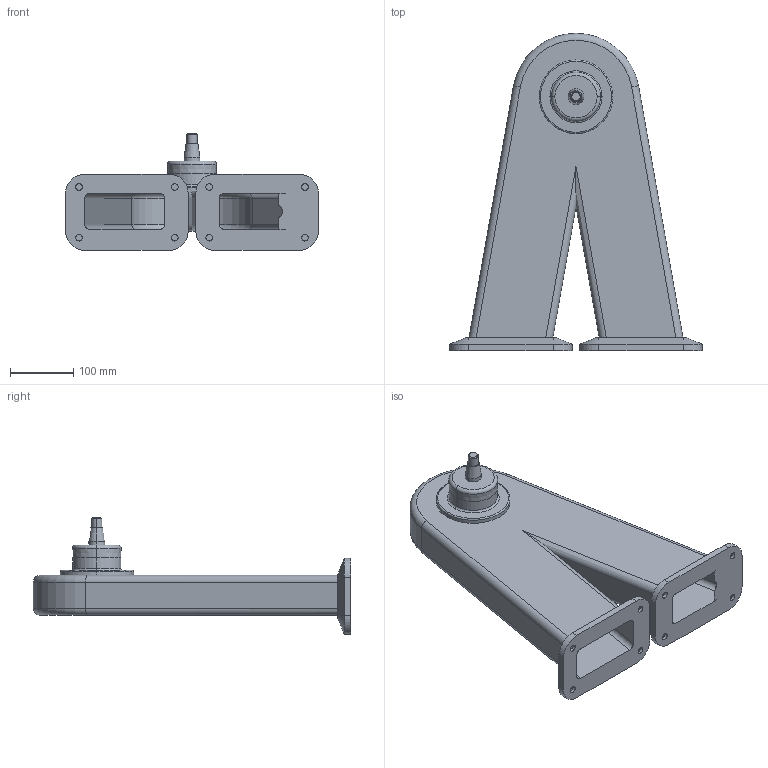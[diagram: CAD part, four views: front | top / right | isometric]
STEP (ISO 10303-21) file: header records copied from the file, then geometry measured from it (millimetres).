
FILE_DESCRIPTION (( 'STEP AP214' ), '1' );
FILE_NAME ('WP850_H400.STEP', '2014-09-08T12:54:18', ( '' ), ( '' ), 'SwSTEP 2.0', 'SolidWorks 2014', '' );
FILE_SCHEMA (( 'AUTOMOTIVE_DESIGN' ));
Length unit declared in the file: millimetre
Products named in the file (1): WP850_H400
Bounding box: 398.09 x 500 x 183.98 mm (x, y, z)
Volume: 1622691.8 mm3; surface area: 692907.2 mm2
Topology: 1 solids, 1 shells, 152 faces, 347 edges, 218 vertices
Faces by surface type: cylinder 76, plane 52, cone 14, torus 10
Entity records: 4347 total; most frequent: DIRECTION 791, CARTESIAN_POINT 778, ORIENTED_EDGE 694, EDGE_CURVE 347, AXIS2_PLACEMENT_3D 311, VERTEX_POINT 218, EDGE_LOOP 185, VECTOR 169
